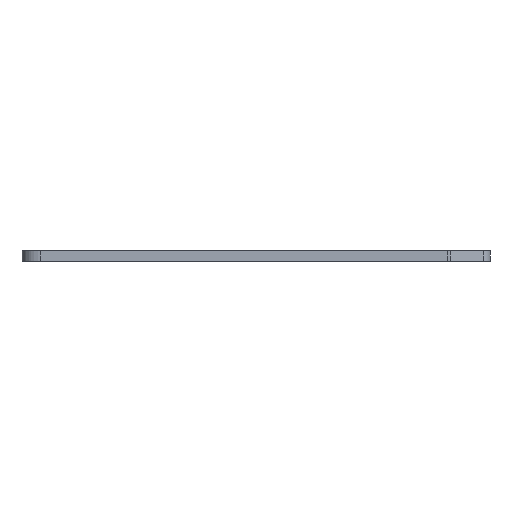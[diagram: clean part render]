
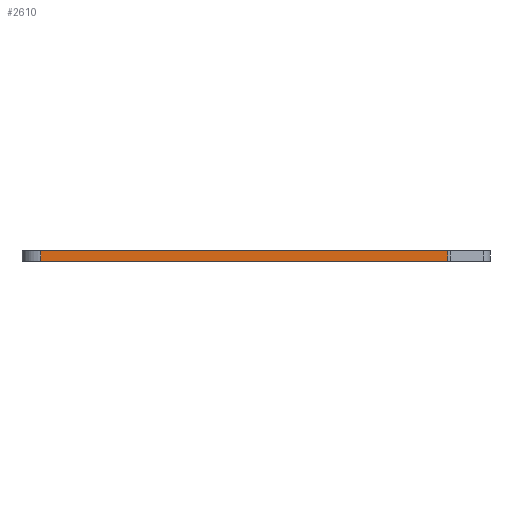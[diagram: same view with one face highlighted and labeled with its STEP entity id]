
A CAD part, front view. The second image highlights one B-rep face of the part: STEP entity #2610.
In plain terms, the highlighted planar face has unit normal (0, -1, 0).
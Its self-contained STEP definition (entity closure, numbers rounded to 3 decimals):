
#2020=CARTESIAN_POINT('',(-63.85,-10.,
2.7));
#2030=VERTEX_POINT('',#2020);
#2060=CARTESIAN_POINT('',(-63.85,-10.,
0.5));
#2070=DIRECTION('',(0.,0.,1.));
#2080=VECTOR('',#2070,1.);
#2090=LINE('',#2060,#2080);
#2100=CARTESIAN_POINT('',(-63.85,-10.,
0.5));
#2110=VERTEX_POINT('',#2100);
#2120=EDGE_CURVE('',#2110,#2030,#2090,.T.);
#2310=CARTESIAN_POINT('',(22.75,-10.,
0.5));
#2320=DIRECTION('',(0.,-1.,0.));
#2330=DIRECTION('',(1.,0.,0.));
#2340=AXIS2_PLACEMENT_3D('',#2310,#2320,#2330);
#2350=PLANE('',#2340);
#2360=ORIENTED_EDGE('',*,*,#2120,.F.);
#2370=CARTESIAN_POINT('',(0.,-10.,2.7));
#2380=DIRECTION('',(1.,0.,0.));
#2390=VECTOR('',#2380,1.);
#2400=LINE('',#2370,#2390);
#2410=CARTESIAN_POINT('',(22.75,-10.,
2.7));
#2420=VERTEX_POINT('',#2410);
#2430=EDGE_CURVE('',#2030,#2420,#2400,.T.);
#2440=ORIENTED_EDGE('',*,*,#2430,.F.);
#2450=CARTESIAN_POINT('',(22.75,-10.,
0.5));
#2460=DIRECTION('',(0.,0.,1.));
#2470=VECTOR('',#2460,1.);
#2480=LINE('',#2450,#2470);
#2490=CARTESIAN_POINT('',(22.75,-10.,
0.5));
#2500=VERTEX_POINT('',#2490);
#2510=EDGE_CURVE('',#2500,#2420,#2480,.T.);
#2520=ORIENTED_EDGE('',*,*,#2510,.T.);
#2530=CARTESIAN_POINT('',(0.,-10.,0.5));
#2540=DIRECTION('',(-1.,0.,0.));
#2550=VECTOR('',#2540,1.);
#2560=LINE('',#2530,#2550);
#2570=EDGE_CURVE('',#2500,#2110,#2560,.T.);
#2580=ORIENTED_EDGE('',*,*,#2570,.F.);
#2590=EDGE_LOOP('',(#2580,#2520,#2440,#2360));
#2600=FACE_OUTER_BOUND('',#2590,.T.);
#2610=ADVANCED_FACE('',(#2600),#2350,.T.);
